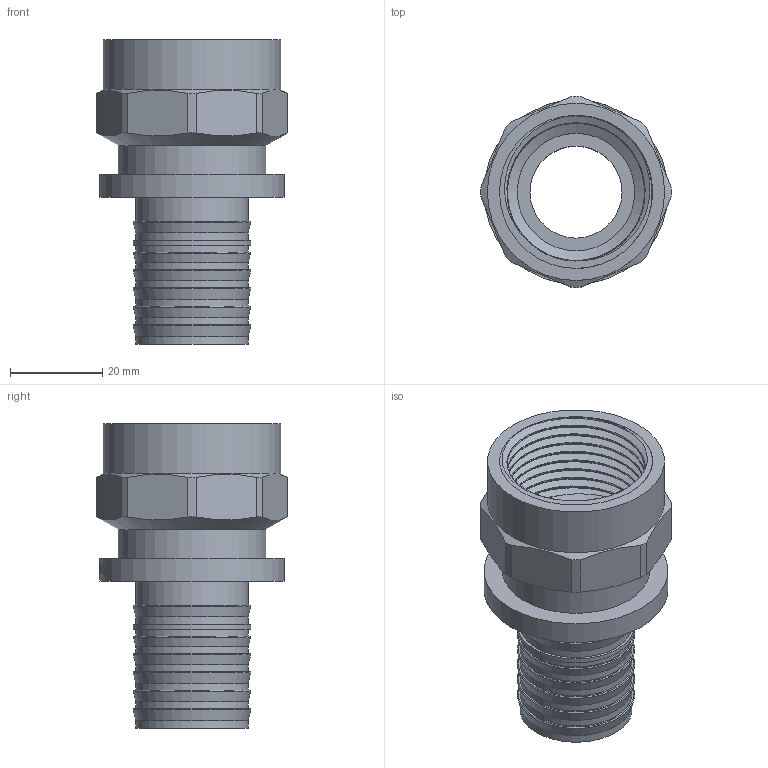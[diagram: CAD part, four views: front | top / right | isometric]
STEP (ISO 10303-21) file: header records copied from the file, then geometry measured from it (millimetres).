
FILE_DESCRIPTION(/* description */ (''),/* implementation_level */ '2;1');
FILE_NAME(/* name */ 'C:\Users\Doom\Desktop\Фадотех\Натяжка\FD-SFM26NEW 14.04.2020\FD-SFM26NEW 14.04.2020.stp',/* time_stamp */ '2022-07-24T12:24:47+03:00',/* author */ ('Doom'),/* organization */ (''),/* preprocessor_version */ 'ST-DEVELOPER v18',/* originating_system */ 'Autodesk Inventor 2020',/* authorisation */ '');
FILE_SCHEMA (('AUTOMOTIVE_DESIGN { 1 0 10303 214 3 1 1 }'));
Length unit declared in the file: millimetre
Products named in the file (1): FD-SFM26NEW 14.04.2020
Bounding box: 41.5 x 41.5 x 66.2 mm (x, y, z)
Volume: 22713.6 mm3; surface area: 20446.7 mm2
Topology: 2 solids, 2 shells, 170 faces, 478 edges, 329 vertices
Faces by surface type: plane 60, bspline 54, cylinder 40, cone 10, torus 6
Full cylindrical faces by diameter (mm): 20 x1, 24.357 x2, 24.4 x6, 25.5 x2, 29.826 x8, 32 x1, 33.25 x2, 38.5 x1, 40 x1
Entity records: 11260 total; most frequent: CARTESIAN_POINT 7085, ORIENTED_EDGE 956, DIRECTION 726, EDGE_CURVE 478, VERTEX_POINT 329, AXIS2_PLACEMENT_3D 278, EDGE_LOOP 191, FACE_OUTER_BOUND 170
